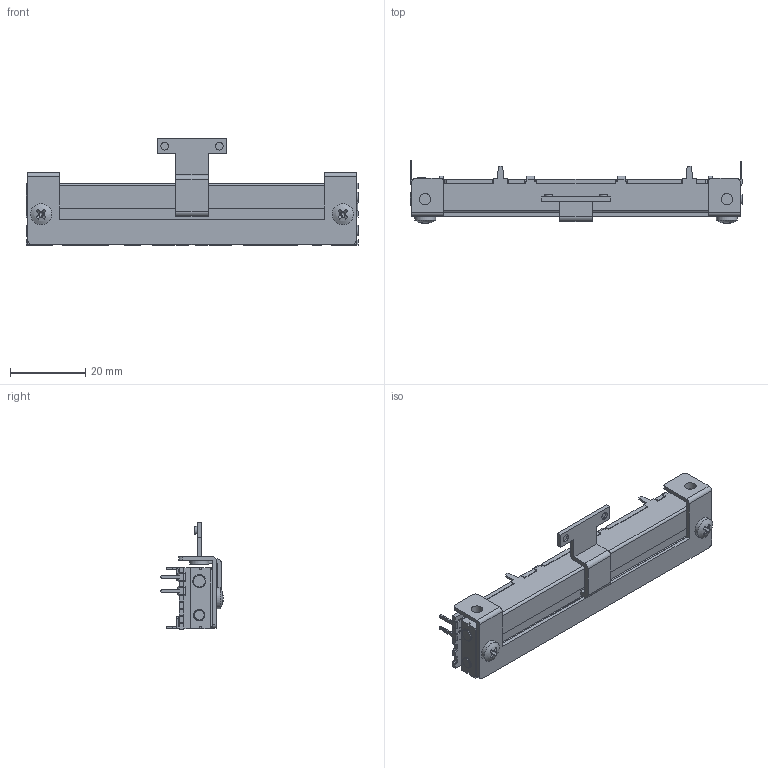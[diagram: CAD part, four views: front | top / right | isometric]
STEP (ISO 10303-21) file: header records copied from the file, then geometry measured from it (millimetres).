
FILE_DESCRIPTION(('FreeCAD Model'),'2;1');
FILE_NAME('Open CASCADE Shape Model','2025-06-26T12:30:08',(''),(''), 'Open CASCADE STEP processor 7.8','FreeCAD','Unknown');
FILE_SCHEMA(('AUTOMOTIVE_DESIGN { 1 0 10303 214 1 1 1 1 }'));
Length unit declared in the file: millimetre
Products named in the file (1): LSVH-610X
Bounding box: 88 x 16.55 x 28.25 mm (x, y, z)
Volume: 13325.3 mm3; surface area: 7198.2 mm2
Topology: 2 solids, 8 shells, 596 faces, 1627 edges, 1063 vertices
Faces by surface type: plane 425, cylinder 151, cone 15, torus 3, sphere 2
Full cylindrical faces by diameter (mm): 0.5 x3, 1.5 x3, 1.7 x8, 2 x4, 2.5 x2, 3 x7, 3.2 x2, 3.5 x1, 4 x2, 5 x2, 5.6 x2
Entity records: 21458 total; most frequent: CARTESIAN_POINT 3294, ORIENTED_EDGE 3250, DIRECTION 3242, EDGE_CURVE 1625, LINE 1184, VECTOR 1184, VERTEX_POINT 1063, AXIS2_PLACEMENT_3D 1029
